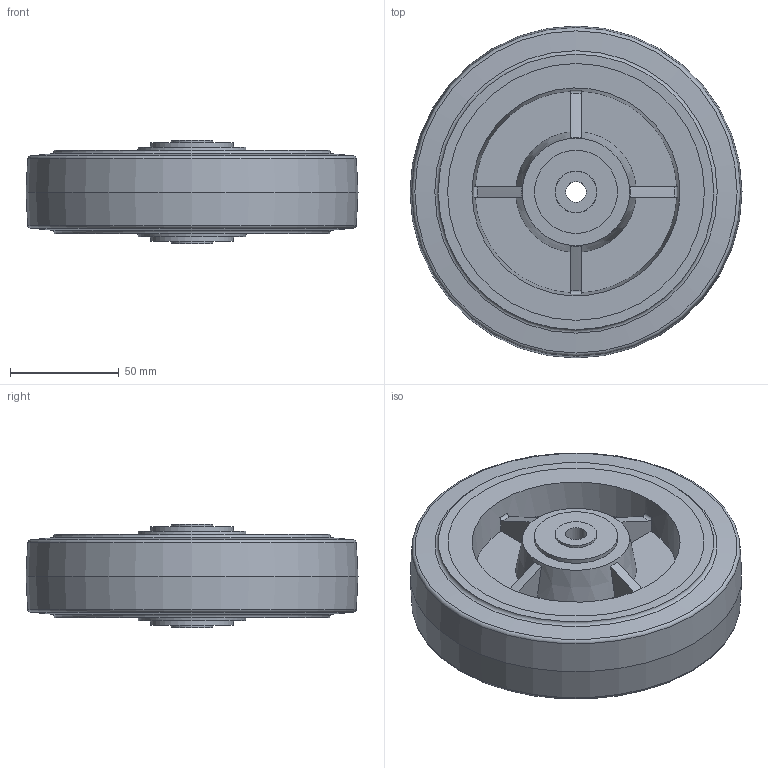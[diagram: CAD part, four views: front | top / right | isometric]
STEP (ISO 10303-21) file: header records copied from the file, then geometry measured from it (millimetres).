
FILE_DESCRIPTION( ( 'STEP AP214' ), '1' );
FILE_NAME( 'p:/temp/worker_156/temp/exporttempdir_2084_2110_xAHSn/format_0/3.00006.449.stp', '2020-01-09T03:12:07', ( '' ), ( '' ), ' ', 'PARTsolutions', ' ' );
FILE_SCHEMA( ( 'AUTOMOTIVE_DESIGN { 1 0 10303 214 1 1 1 1 }' ) );
Length unit declared in the file: inch
Products named in the file (6): 3.00006.449; _3.00006.4491 1/2 (C); _3.00006.4491 1/2 (T); _55000.17; _55000.05; _50116.03
Assembly tree (6 placements, depth 2):
  3.00006.449
    _3.00006.4491 1/2 (C)
    _3.00006.4491 1/2 (T)
    _55000.17
    _55000.05
    _50116.03  x2
Bounding box: 152.4 x 152.4 x 47.62 mm (x, y, z)
Volume: 530861.7 mm3; surface area: 125486.8 mm2
Topology: 6 solids, 6 shells, 94 faces, 210 edges, 136 vertices
Faces by surface type: plane 44, cone 17, cylinder 17, torus 16
Full cylindrical faces by diameter (mm): 9.525 x1, 19.05 x2, 19.177 x2, 30.162 x1, 30.226 x3, 38.1 x2, 117.856 x4, 133.604 x2
Entity records: 3366 total; most frequent: CARTESIAN_POINT 768, DIRECTION 374, ORIENTED_EDGE 330, AXIS2_PLACEMENT_3D 179, EDGE_CURVE 165, EDGE_LOOP 134, VERTEX_POINT 125, FACE_OUTER_BOUND 109
